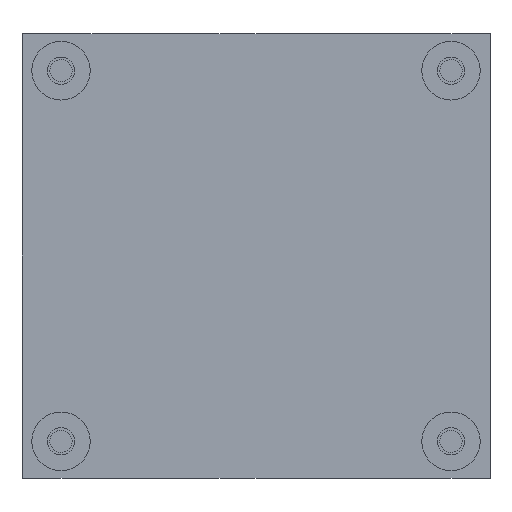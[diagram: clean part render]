
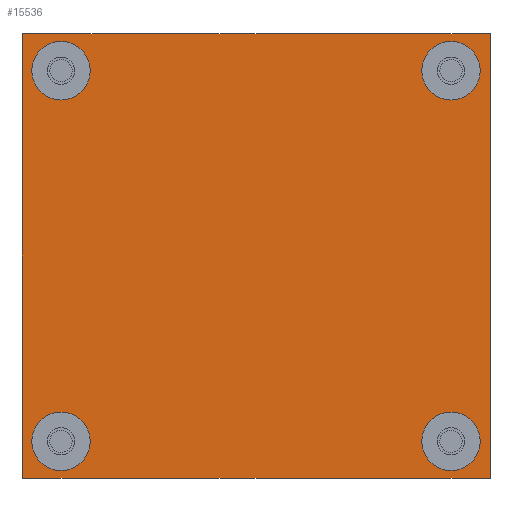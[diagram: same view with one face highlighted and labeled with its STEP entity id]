
A CAD part, front view. The second image highlights one B-rep face of the part: STEP entity #15536.
In plain terms, the highlighted planar face has unit normal (0, -1, 0).
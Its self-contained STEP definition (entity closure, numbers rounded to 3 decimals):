
#168 = CIRCLE ( 'NONE', #3590, 3.81 ) ;
#294 = CARTESIAN_POINT ( 'NONE',  ( 40.17, 27.95, 77.786 ) ) ;
#375 = ORIENTED_EDGE ( 'NONE', *, *, #3969, .T. ) ;
#399 = FACE_BOUND ( 'NONE', #13123, .T. ) ;
#517 = VERTEX_POINT ( 'NONE', #25837 ) ;
#645 = DIRECTION ( 'NONE',  ( 0., 0., -1. ) ) ;
#732 = ORIENTED_EDGE ( 'NONE', *, *, #13569, .T. ) ;
#806 = CARTESIAN_POINT ( 'NONE',  ( -14.44, 27.95, 77.786 ) ) ;
#1006 = EDGE_CURVE ( 'NONE', #24033, #23358, #9900, .T. ) ;
#1214 = DIRECTION ( 'NONE',  ( 1., 0., 0. ) ) ;
#2567 = EDGE_CURVE ( 'NONE', #517, #24649, #22583, .T. ) ;
#2620 = EDGE_LOOP ( 'NONE', ( #25646, #23889, #26008, #20570 ) ) ;
#2737 = CARTESIAN_POINT ( 'NONE',  ( 36.36, 27.95, 77.786 ) ) ;
#2986 = DIRECTION ( 'NONE',  ( 0., 1., 0. ) ) ;
#3590 = AXIS2_PLACEMENT_3D ( 'NONE', #13728, #19387, #1214 ) ;
#3603 = LINE ( 'NONE', #15617, #10499 ) ;
#3610 = DIRECTION ( 'NONE',  ( 1., 0., 0. ) ) ;
#3894 = DIRECTION ( 'NONE',  ( -1., 0., 0. ) ) ;
#3969 = EDGE_CURVE ( 'NONE', #4831, #10572, #21765, .T. ) ;
#4231 = DIRECTION ( 'NONE',  ( 1., 0., 0. ) ) ;
#4375 = CARTESIAN_POINT ( 'NONE',  ( -19.52, 27.95, 24.7 ) ) ;
#4794 = AXIS2_PLACEMENT_3D ( 'NONE', #25899, #2986, #21389 ) ;
#4831 = VERTEX_POINT ( 'NONE', #7096 ) ;
#5052 = CIRCLE ( 'NONE', #17431, 3.81 ) ;
#5061 = CARTESIAN_POINT ( 'NONE',  ( -14.44, 27.95, 29.526 ) ) ;
#5880 = CARTESIAN_POINT ( 'NONE',  ( 36.36, 27.95, 29.526 ) ) ;
#6338 = DIRECTION ( 'NONE',  ( 0., 1., 0. ) ) ;
#6406 = FACE_BOUND ( 'NONE', #6847, .T. ) ;
#6414 = EDGE_LOOP ( 'NONE', ( #18894, #14901 ) ) ;
#6647 = ORIENTED_EDGE ( 'NONE', *, *, #18959, .T. ) ;
#6847 = EDGE_LOOP ( 'NONE', ( #16042, #6647 ) ) ;
#6959 = AXIS2_PLACEMENT_3D ( 'NONE', #8352, #7971, #4231 ) ;
#7096 = CARTESIAN_POINT ( 'NONE',  ( -18.25, 27.95, 77.786 ) ) ;
#7389 = CARTESIAN_POINT ( 'NONE',  ( -18.25, 27.95, 29.526 ) ) ;
#7563 = ORIENTED_EDGE ( 'NONE', *, *, #11847, .T. ) ;
#7666 = CARTESIAN_POINT ( 'NONE',  ( -19.52, 27.95, 82.612 ) ) ;
#7901 = VECTOR ( 'NONE', #20343, 1000. ) ;
#7971 = DIRECTION ( 'NONE',  ( 0., 1., 0. ) ) ;
#7981 = CARTESIAN_POINT ( 'NONE',  ( 41.44, 27.95, 24.7 ) ) ;
#8098 = AXIS2_PLACEMENT_3D ( 'NONE', #17788, #15340, #3610 ) ;
#8241 = CARTESIAN_POINT ( 'NONE',  ( -10.63, 27.95, 77.786 ) ) ;
#8307 = CARTESIAN_POINT ( 'NONE',  ( 40.17, 27.95, 29.526 ) ) ;
#8352 = CARTESIAN_POINT ( 'NONE',  ( -19.52, 27.95, 24.7 ) ) ;
#9900 = CIRCLE ( 'NONE', #4794, 3.81 ) ;
#10099 = AXIS2_PLACEMENT_3D ( 'NONE', #806, #23357, #17221 ) ;
#10240 = DIRECTION ( 'NONE',  ( 0., 1., 0. ) ) ;
#10499 = VECTOR ( 'NONE', #15473, 1000. ) ;
#10526 = EDGE_CURVE ( 'NONE', #24649, #16355, #3603, .T. ) ;
#10572 = VERTEX_POINT ( 'NONE', #8241 ) ;
#11061 = VECTOR ( 'NONE', #3894, 1000. ) ;
#11235 = DIRECTION ( 'NONE',  ( 1., 0., 0. ) ) ;
#11274 = EDGE_CURVE ( 'NONE', #16343, #23572, #5052, .T. ) ;
#11847 = EDGE_CURVE ( 'NONE', #23358, #24033, #23516, .T. ) ;
#12599 = DIRECTION ( 'NONE',  ( 1., 0., 0. ) ) ;
#13123 = EDGE_LOOP ( 'NONE', ( #7563, #17844 ) ) ;
#13569 = EDGE_CURVE ( 'NONE', #10572, #4831, #24169, .T. ) ;
#13728 = CARTESIAN_POINT ( 'NONE',  ( 36.36, 27.95, 29.526 ) ) ;
#14533 = FACE_OUTER_BOUND ( 'NONE', #2620, .T. ) ;
#14800 = AXIS2_PLACEMENT_3D ( 'NONE', #5061, #25341, #24575 ) ;
#14901 = ORIENTED_EDGE ( 'NONE', *, *, #20719, .T. ) ;
#15235 = CARTESIAN_POINT ( 'NONE',  ( -14.44, 27.95, 29.526 ) ) ;
#15340 = DIRECTION ( 'NONE',  ( 0., 1., 0. ) ) ;
#15473 = DIRECTION ( 'NONE',  ( 0., 0., 1. ) ) ;
#15536 = ADVANCED_FACE ( 'NONE', ( #24678, #20723, #399, #6406, #14533 ), #20848, .F. ) ;
#15554 = CARTESIAN_POINT ( 'NONE',  ( 32.55, 27.95, 77.786 ) ) ;
#15617 = CARTESIAN_POINT ( 'NONE',  ( -19.52, 27.95, 24.7 ) ) ;
#16042 = ORIENTED_EDGE ( 'NONE', *, *, #11274, .T. ) ;
#16343 = VERTEX_POINT ( 'NONE', #21831 ) ;
#16355 = VERTEX_POINT ( 'NONE', #7666 ) ;
#16661 = EDGE_CURVE ( 'NONE', #16355, #26162, #22332, .T. ) ;
#16720 = CARTESIAN_POINT ( 'NONE',  ( -10.63, 27.95, 29.526 ) ) ;
#17221 = DIRECTION ( 'NONE',  ( 1., 0., 0. ) ) ;
#17297 = CIRCLE ( 'NONE', #19874, 3.81 ) ;
#17431 = AXIS2_PLACEMENT_3D ( 'NONE', #5880, #10240, #22292 ) ;
#17788 = CARTESIAN_POINT ( 'NONE',  ( -14.44, 27.95, 77.786 ) ) ;
#17844 = ORIENTED_EDGE ( 'NONE', *, *, #1006, .T. ) ;
#18631 = VERTEX_POINT ( 'NONE', #16720 ) ;
#18894 = ORIENTED_EDGE ( 'NONE', *, *, #23636, .T. ) ;
#18959 = EDGE_CURVE ( 'NONE', #23572, #16343, #168, .T. ) ;
#19161 = VECTOR ( 'NONE', #645, 1000. ) ;
#19387 = DIRECTION ( 'NONE',  ( 0., 1., 0. ) ) ;
#19874 = AXIS2_PLACEMENT_3D ( 'NONE', #15235, #21392, #11235 ) ;
#20343 = DIRECTION ( 'NONE',  ( 1., 0., 0. ) ) ;
#20434 = VERTEX_POINT ( 'NONE', #7389 ) ;
#20570 = ORIENTED_EDGE ( 'NONE', *, *, #16661, .F. ) ;
#20719 = EDGE_CURVE ( 'NONE', #18631, #20434, #20816, .T. ) ;
#20723 = FACE_BOUND ( 'NONE', #22855, .T. ) ;
#20816 = CIRCLE ( 'NONE', #14800, 3.81 ) ;
#20848 = PLANE ( 'NONE',  #6959 ) ;
#21389 = DIRECTION ( 'NONE',  ( 1., 0., 0. ) ) ;
#21392 = DIRECTION ( 'NONE',  ( 0., 1., 0. ) ) ;
#21765 = CIRCLE ( 'NONE', #8098, 3.81 ) ;
#21831 = CARTESIAN_POINT ( 'NONE',  ( 32.55, 27.95, 29.526 ) ) ;
#22292 = DIRECTION ( 'NONE',  ( 1., 0., 0. ) ) ;
#22332 = LINE ( 'NONE', #26182, #7901 ) ;
#22583 = LINE ( 'NONE', #24183, #11061 ) ;
#22855 = EDGE_LOOP ( 'NONE', ( #375, #732 ) ) ;
#23098 = AXIS2_PLACEMENT_3D ( 'NONE', #2737, #6338, #12599 ) ;
#23357 = DIRECTION ( 'NONE',  ( 0., 1., 0. ) ) ;
#23358 = VERTEX_POINT ( 'NONE', #15554 ) ;
#23368 = CARTESIAN_POINT ( 'NONE',  ( 41.44, 27.95, 82.612 ) ) ;
#23516 = CIRCLE ( 'NONE', #23098, 3.81 ) ;
#23572 = VERTEX_POINT ( 'NONE', #8307 ) ;
#23636 = EDGE_CURVE ( 'NONE', #20434, #18631, #17297, .T. ) ;
#23889 = ORIENTED_EDGE ( 'NONE', *, *, #2567, .F. ) ;
#24033 = VERTEX_POINT ( 'NONE', #294 ) ;
#24169 = CIRCLE ( 'NONE', #10099, 3.81 ) ;
#24183 = CARTESIAN_POINT ( 'NONE',  ( -19.52, 27.95, 24.7 ) ) ;
#24575 = DIRECTION ( 'NONE',  ( 1., 0., 0. ) ) ;
#24649 = VERTEX_POINT ( 'NONE', #4375 ) ;
#24678 = FACE_BOUND ( 'NONE', #6414, .T. ) ;
#25341 = DIRECTION ( 'NONE',  ( 0., 1., 0. ) ) ;
#25394 = EDGE_CURVE ( 'NONE', #26162, #517, #26264, .T. ) ;
#25646 = ORIENTED_EDGE ( 'NONE', *, *, #10526, .F. ) ;
#25837 = CARTESIAN_POINT ( 'NONE',  ( 41.44, 27.95, 24.7 ) ) ;
#25899 = CARTESIAN_POINT ( 'NONE',  ( 36.36, 27.95, 77.786 ) ) ;
#26008 = ORIENTED_EDGE ( 'NONE', *, *, #25394, .F. ) ;
#26162 = VERTEX_POINT ( 'NONE', #23368 ) ;
#26182 = CARTESIAN_POINT ( 'NONE',  ( -19.52, 27.95, 82.612 ) ) ;
#26264 = LINE ( 'NONE', #7981, #19161 ) ;
